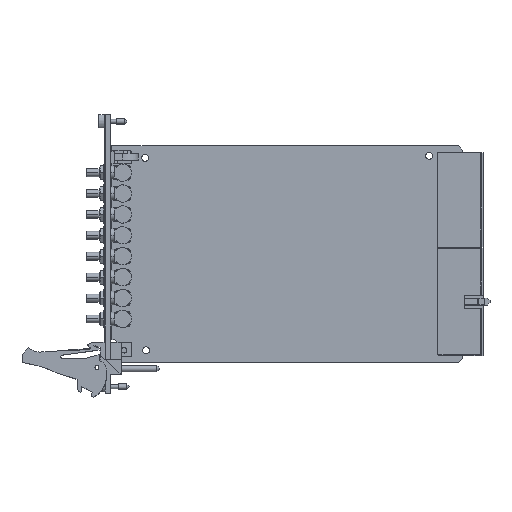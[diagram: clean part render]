
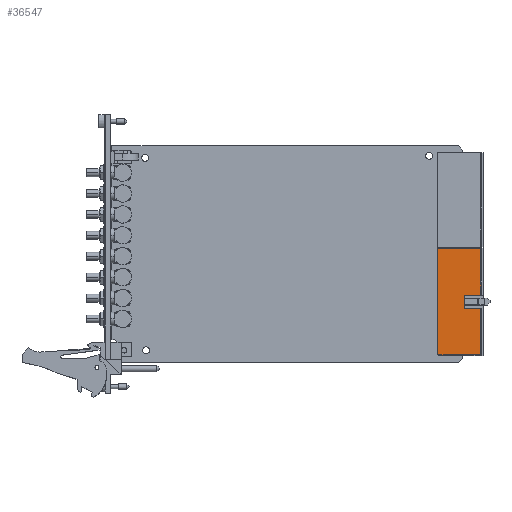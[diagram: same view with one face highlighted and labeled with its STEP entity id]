
A CAD part, top view. The second image highlights one B-rep face of the part: STEP entity #36547.
In plain terms, the highlighted planar face has unit normal (0, 0, 1).
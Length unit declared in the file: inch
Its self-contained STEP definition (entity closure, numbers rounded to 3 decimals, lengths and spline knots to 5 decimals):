
#13755=DIRECTION('',(1.,0.,0.));
#13756=VECTOR('',#13755,0.77756);
#13757=CARTESIAN_POINT('',(5.84533,-3.79969,
0.35728));
#13758=LINE('',#13757,#13756);
#13767=DIRECTION('',(1.,0.,0.));
#13768=VECTOR('',#13767,0.77756);
#13769=CARTESIAN_POINT('',(5.84533,-1.87055,
0.35728));
#13770=LINE('',#13769,#13768);
#14091=DIRECTION('',(0.,1.,0.));
#14092=VECTOR('',#14091,0.84457);
#14093=CARTESIAN_POINT('',(6.62289,-3.79969,
0.35728));
#14094=LINE('',#14093,#14092);
#14095=DIRECTION('',(-1.,0.,0.));
#14096=VECTOR('',#14095,0.30315);
#14097=CARTESIAN_POINT('',(6.62289,-2.71512,
0.35728));
#14098=LINE('',#14097,#14096);
#14099=DIRECTION('',(0.,-1.,0.));
#14100=VECTOR('',#14099,0.06);
#14101=CARTESIAN_POINT('',(6.31974,-2.71512,
0.35728));
#14102=LINE('',#14101,#14100);
#14103=DIRECTION('',(0.,-1.,0.));
#14104=VECTOR('',#14103,0.06);
#14105=CARTESIAN_POINT('',(6.31974,-2.89512,
0.35728));
#14106=LINE('',#14105,#14104);
#14107=DIRECTION('',(-1.,0.,0.));
#14108=VECTOR('',#14107,0.30315);
#14109=CARTESIAN_POINT('',(6.62289,-2.95512,
0.35728));
#14110=LINE('',#14109,#14108);
#14111=DIRECTION('',(0.,1.,0.));
#14112=VECTOR('',#14111,1.92913);
#14113=CARTESIAN_POINT('',(5.84533,-3.79969,
0.35728));
#14114=LINE('',#14113,#14112);
#14159=DIRECTION('',(0.,1.,0.));
#14160=VECTOR('',#14159,0.12);
#14161=CARTESIAN_POINT('',(6.31974,-2.89512,
0.35728));
#14162=LINE('',#14161,#14160);
#14183=DIRECTION('',(0.,1.,0.));
#14184=VECTOR('',#14183,0.84457);
#14185=CARTESIAN_POINT('',(6.62289,-2.71512,
0.35728));
#14186=LINE('',#14185,#14184);
#16462=CARTESIAN_POINT('',(5.84533,-3.79969,
0.35728));
#16463=CARTESIAN_POINT('',(6.62289,-3.79969,
0.35728));
#16464=VERTEX_POINT('',#16462);
#16465=VERTEX_POINT('',#16463);
#16466=CARTESIAN_POINT('',(5.84533,-1.87055,
0.35728));
#16467=CARTESIAN_POINT('',(6.62289,-1.87055,
0.35728));
#16468=VERTEX_POINT('',#16466);
#16469=VERTEX_POINT('',#16467);
#16478=CARTESIAN_POINT('',(6.62289,-2.71512,
0.35728));
#16479=CARTESIAN_POINT('',(6.31974,-2.71512,
0.35728));
#16480=VERTEX_POINT('',#16478);
#16481=VERTEX_POINT('',#16479);
#16482=CARTESIAN_POINT('',(6.31974,-2.77512,
0.35728));
#16483=VERTEX_POINT('',#16482);
#16484=CARTESIAN_POINT('',(6.62289,-2.95512,
0.35728));
#16485=CARTESIAN_POINT('',(6.31974,-2.95512,
0.35728));
#16486=VERTEX_POINT('',#16484);
#16487=VERTEX_POINT('',#16485);
#16488=CARTESIAN_POINT('',(6.31974,-2.89512,
0.35728));
#16489=VERTEX_POINT('',#16488);
#36526=CARTESIAN_POINT('',(5.84533,-3.79969,
0.35728));
#36527=DIRECTION('',(0.,0.,1.));
#36528=DIRECTION('',(1.,0.,0.));
#36529=AXIS2_PLACEMENT_3D('',#36526,#36527,#36528);
#36530=PLANE('',#36529);
#36532=ORIENTED_EDGE('',*,*,#36531,.T.);
#36534=ORIENTED_EDGE('',*,*,#36533,.T.);
#36536=ORIENTED_EDGE('',*,*,#36535,.F.);
#36537=ORIENTED_EDGE('',*,*,#36465,.T.);
#36538=ORIENTED_EDGE('',*,*,#36482,.F.);
#36539=ORIENTED_EDGE('',*,*,#36521,.F.);
#36540=ORIENTED_EDGE('',*,*,#36018,.F.);
#36541=ORIENTED_EDGE('',*,*,#36036,.T.);
#36542=ORIENTED_EDGE('',*,*,#36054,.T.);
#36544=ORIENTED_EDGE('',*,*,#36543,.F.);
#36545=EDGE_LOOP('',(#36532,#36534,#36536,#36537,#36538,#36539,#36540,#36541,
#36542,#36544));
#36546=FACE_OUTER_BOUND('',#36545,.F.);
#36547=ADVANCED_FACE('',(#36546),#36530,.T.);
#36018=EDGE_CURVE('',#16464,#16465,#13758,.T.);
#36036=EDGE_CURVE('',#16464,#16468,#14114,.T.);
#36054=EDGE_CURVE('',#16468,#16469,#13770,.T.);
#36465=EDGE_CURVE('',#16489,#16487,#14106,.T.);
#36482=EDGE_CURVE('',#16486,#16487,#14110,.T.);
#36521=EDGE_CURVE('',#16465,#16486,#14094,.T.);
#36531=EDGE_CURVE('',#16480,#16481,#14098,.T.);
#36533=EDGE_CURVE('',#16481,#16483,#14102,.T.);
#36535=EDGE_CURVE('',#16489,#16483,#14162,.T.);
#36543=EDGE_CURVE('',#16480,#16469,#14186,.T.);
